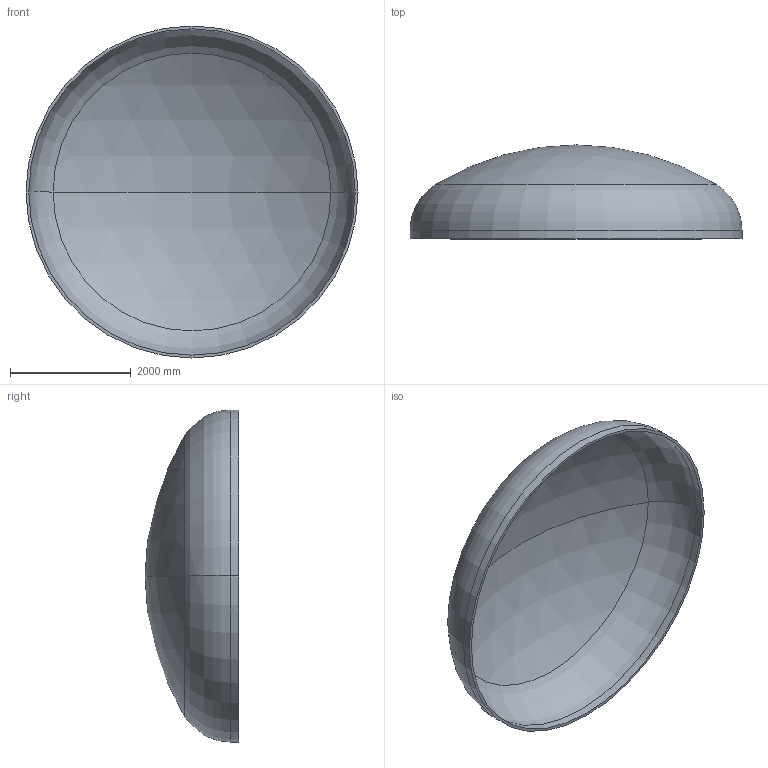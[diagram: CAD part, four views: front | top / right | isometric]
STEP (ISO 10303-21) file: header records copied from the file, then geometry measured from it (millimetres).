
FILE_DESCRIPTION (( 'STEP AP203' ), '1' );
FILE_NAME ('DIN 28013 Korbbogenform_-_Boden DIN 28013 - 5500 x 140 - I - s=46.step', '2016-07-04T10:34:17', ( '' ), ( '' ), 'SwSTEP 2.0', 'SolidWorks 2013', '' );
FILE_SCHEMA (( 'CONFIG_CONTROL_DESIGN' ));
Length unit declared in the file: millimetre
Products named in the file (1): DIN 28013 Korbbogenform_-_Boden DIN 28013 - 5500 x 140 - I - s=46
Bounding box: 5500 x 1555.79 x 5500 mm (x, y, z)
Volume: 1606636229.7 mm3; surface area: 70646329.8 mm2
Topology: 1 solids, 1 shells, 13 faces, 24 edges, 14 vertices
Faces by surface type: torus 4, cylinder 4, sphere 4, plane 1
Entity records: 407 total; most frequent: DIRECTION 72, CARTESIAN_POINT 52, ORIENTED_EDGE 48, AXIS2_PLACEMENT_3D 34, EDGE_CURVE 24, CIRCLE 20, VERTEX_POINT 14, EDGE_LOOP 14
